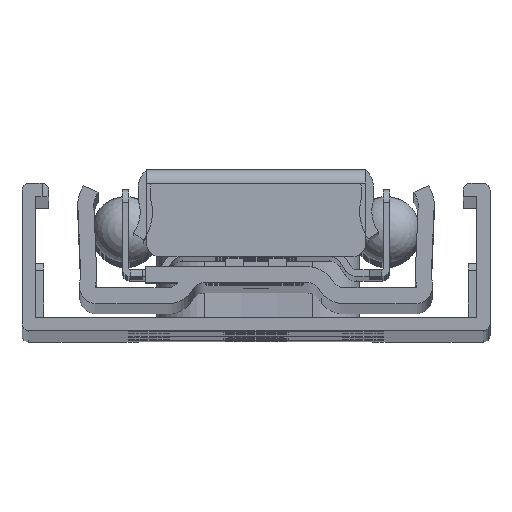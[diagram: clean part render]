
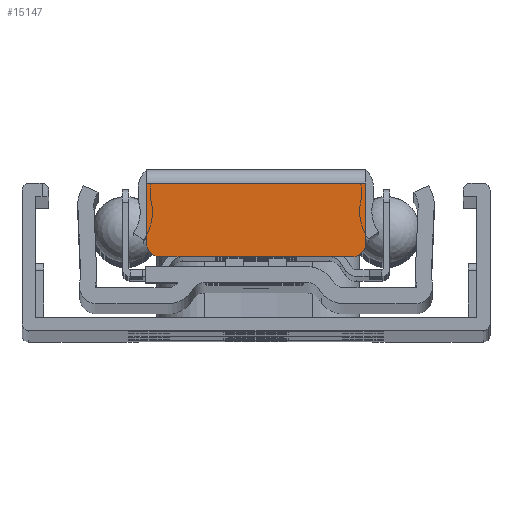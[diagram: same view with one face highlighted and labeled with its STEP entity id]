
A CAD part, top view. The second image highlights one B-rep face of the part: STEP entity #15147.
In plain terms, the highlighted planar face has unit normal (0, 0, 1).
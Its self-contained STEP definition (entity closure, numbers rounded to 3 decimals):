
#794=PLANE('',#16672);
#1543=FACE_OUTER_BOUND('',#2456,.T.);
#2456=EDGE_LOOP('',(#13952,#13953,#13954,#13955,#13956,#13957));
#3919=LINE('',#25860,#5386);
#3920=LINE('',#25863,#5387);
#3921=LINE('',#25867,#5388);
#3922=LINE('',#25870,#5389);
#5386=VECTOR('',#21036,10.);
#5387=VECTOR('',#21039,10.);
#5388=VECTOR('',#21042,10.);
#5389=VECTOR('',#21045,10.);
#6129=CIRCLE('',#16673,1.);
#6130=CIRCLE('',#16674,1.);
#7553=VERTEX_POINT('',#25856);
#7554=VERTEX_POINT('',#25858);
#7555=VERTEX_POINT('',#25862);
#7556=VERTEX_POINT('',#25864);
#7557=VERTEX_POINT('',#25866);
#7558=VERTEX_POINT('',#25868);
#9705=EDGE_CURVE('',#7554,#7553,#3919,.T.);
#9706=EDGE_CURVE('',#7554,#7555,#3920,.T.);
#9707=EDGE_CURVE('',#7556,#7555,#6129,.T.);
#9708=EDGE_CURVE('',#7556,#7557,#3921,.T.);
#9709=EDGE_CURVE('',#7558,#7557,#6130,.T.);
#9710=EDGE_CURVE('',#7553,#7558,#3922,.T.);
#13952=ORIENTED_EDGE('',*,*,#9705,.F.);
#13953=ORIENTED_EDGE('',*,*,#9706,.T.);
#13954=ORIENTED_EDGE('',*,*,#9707,.F.);
#13955=ORIENTED_EDGE('',*,*,#9708,.T.);
#13956=ORIENTED_EDGE('',*,*,#9709,.F.);
#13957=ORIENTED_EDGE('',*,*,#9710,.F.);
#15147=ADVANCED_FACE('',(#1543),#794,.T.);
#16672=AXIS2_PLACEMENT_3D('',#25861,#21037,#21038);
#16673=AXIS2_PLACEMENT_3D('',#25865,#21040,#21041);
#16674=AXIS2_PLACEMENT_3D('',#25869,#21043,#21044);
#21036=DIRECTION('',(-1.,0.,0.));
#21037=DIRECTION('center_axis',(0.,0.,1.));
#21038=DIRECTION('ref_axis',(1.,0.,0.));
#21039=DIRECTION('',(0.,1.,0.));
#21040=DIRECTION('center_axis',(0.,0.,-1.));
#21041=DIRECTION('ref_axis',(0.707,0.707,0.));
#21042=DIRECTION('',(-1.,0.,0.));
#21043=DIRECTION('center_axis',(0.,0.,-1.));
#21044=DIRECTION('ref_axis',(-0.707,0.707,0.));
#21045=DIRECTION('',(0.,1.,0.));
#25856=CARTESIAN_POINT('',(5.11,-4.766,499.));
#25858=CARTESIAN_POINT('',(21.512,-4.766,499.));
#25860=CARTESIAN_POINT('',(17.427,-4.766,499.));
#25861=CARTESIAN_POINT('Origin',(21.512,-5.766,499.));
#25862=CARTESIAN_POINT('',(21.512,-0.266,499.));
#25863=CARTESIAN_POINT('',(21.512,-5.766,499.));
#25864=CARTESIAN_POINT('',(20.512,0.734,499.));
#25865=CARTESIAN_POINT('Origin',(20.512,-0.266,499.));
#25866=CARTESIAN_POINT('',(6.11,0.734,499.));
#25867=CARTESIAN_POINT('',(21.512,0.734,499.));
#25868=CARTESIAN_POINT('',(5.11,-0.266,499.));
#25869=CARTESIAN_POINT('Origin',(6.11,-0.266,499.));
#25870=CARTESIAN_POINT('',(5.11,-5.766,499.));
